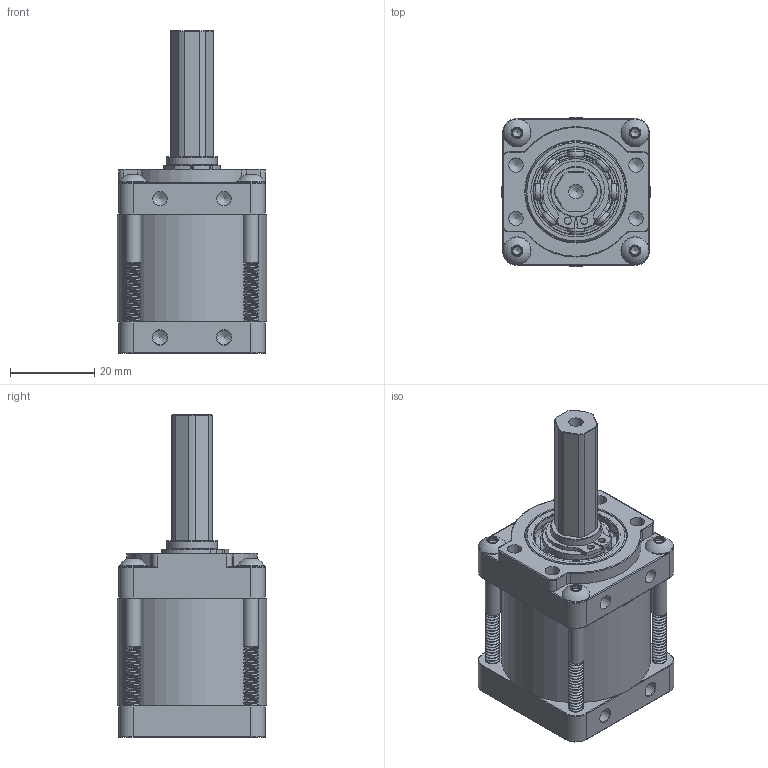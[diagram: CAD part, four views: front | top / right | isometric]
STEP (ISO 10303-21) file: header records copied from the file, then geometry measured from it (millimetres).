
FILE_DESCRIPTION(/* description */ (''),/* implementation_level */ '2;1');
FILE_NAME(/* name */ 'HiveDrive gearbox.step',/* time_stamp */ '2025-12-01T15:04:56-05:00',/* author */ (''),/* organization */ (''),/* preprocessor_version */ 'ST-DEVELOPER v20.1',/* originating_system */ 'Autodesk Translation Framework v14.21.0.0',/* authorisation */ '');
FILE_SCHEMA (('AUTOMOTIVE_DESIGN { 1 0 10303 214 3 1 1 }'));
Products named in the file (9): BabyBee gearbox; BabyBee shaft; BabyBee Front plate; 5972K212_Ball Bearing; 5972K242_Ball Bearing; 98541A119_External Retaining Ring; BabyBee Backplate; 91255A157_Button Head Hex Drive Screw; Ring Gear Mk2
Assembly tree (11 placements, depth 3):
  BabyBee gearbox
    BabyBee shaft
    BabyBee Front plate
      5972K212_Ball Bearing
      5972K242_Ball Bearing
    98541A119_External Retaining Ring
    BabyBee Backplate
    91255A157_Button Head Hex Drive Screw  x4
    Ring Gear Mk2
Bounding box: 35.5 x 35.5 x 76.87 mm (x, y, z)
Volume: 34987.7 mm3; surface area: 29185.7 mm2
Topology: 36 solids, 36 shells, 1191 faces, 3055 edges, 1961 vertices
Faces by surface type: cylinder 559, plane 269, torus 128, bspline 117, cone 80, sphere 38
Full cylindrical faces by diameter (mm): 1.7 x2, 2.474 x92, 2.5 x2, 2.6 x2, 2.769 x4, 3.416 x13, 3.505 x92, 3.607 x4, 3.81 x4, 4 x3, 11 x1, 12 x5, 14.531 x2, 15 x1, 15.785 x2, 18 x1, 18.469 x2, 18.649 x2, 19.313 x2, 20.215 x2, 20.431 x2, 21 x1, 21.1 x1, 21.477 x2, 24 x1, 24.05 x1, 25 x1, 26.4 x1, 35.5 x1
Entity records: 49923 total; most frequent: CARTESIAN_POINT 27044, DIRECTION 4769, ORIENTED_EDGE 4730, EDGE_CURVE 2365, AXIS2_PLACEMENT_3D 2066, VERTEX_POINT 1553, CIRCLE 1217, EDGE_LOOP 1120
